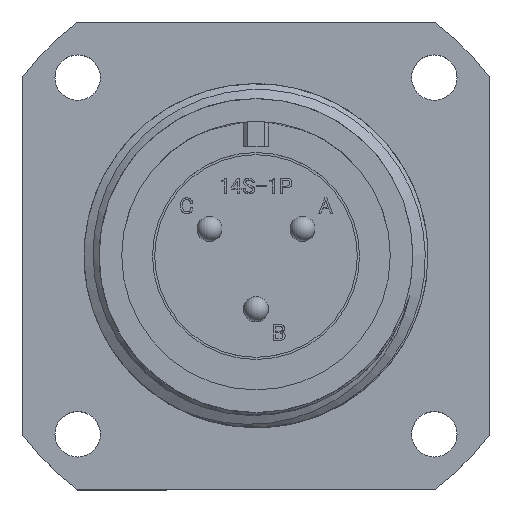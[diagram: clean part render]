
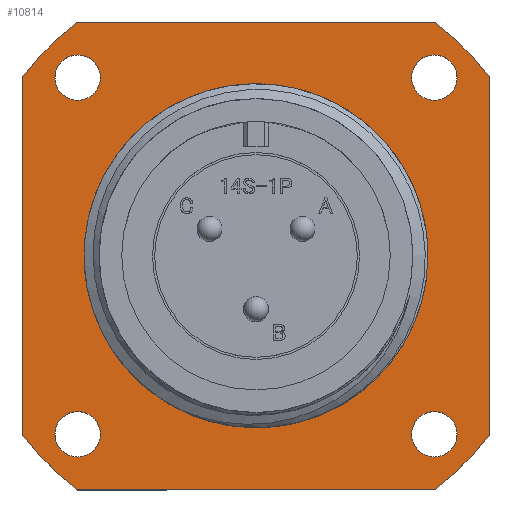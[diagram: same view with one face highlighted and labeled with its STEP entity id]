
A CAD part, top view. The second image highlights one B-rep face of the part: STEP entity #10814.
In plain terms, the highlighted planar face has unit normal (0, 0, 1).
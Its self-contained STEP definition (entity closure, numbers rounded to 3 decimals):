
#504 = AXIS2_PLACEMENT_3D ( 'NONE', #11716, #6411, #9613 ) ;
#786 = CARTESIAN_POINT ( 'NONE',  ( 11.532, -15.1, -14.48 ) ) ;
#886 = ORIENTED_EDGE ( 'NONE', *, *, #12243, .T. ) ;
#921 = CARTESIAN_POINT ( 'NONE',  ( -15.1, 11.532, -14.48 ) ) ;
#994 = DIRECTION ( 'NONE',  ( 0., 0., 1. ) ) ;
#1973 = DIRECTION ( 'NONE',  ( -1., 0., 0. ) ) ;
#2007 = EDGE_CURVE ( 'NONE', #11740, #11740, #3165, .T. ) ;
#2093 = EDGE_LOOP ( 'NONE', ( #7126 ) ) ;
#2207 = AXIS2_PLACEMENT_3D ( 'NONE', #13440, #994, #7135 ) ;
#2344 = CIRCLE ( 'NONE', #9179, 19. ) ;
#2371 = DIRECTION ( 'NONE',  ( 0., 0., 1. ) ) ;
#2385 = CARTESIAN_POINT ( 'NONE',  ( 15.1, 11.532, -14.48 ) ) ;
#2452 = ORIENTED_EDGE ( 'NONE', *, *, #7600, .T. ) ;
#2457 = CARTESIAN_POINT ( 'NONE',  ( -11.532, -15.1, -14.48 ) ) ;
#2512 = DIRECTION ( 'NONE',  ( 0., 1., 0. ) ) ;
#2613 = PLANE ( 'NONE',  #6826 ) ;
#2683 = FACE_BOUND ( 'NONE', #9467, .T. ) ;
#2686 = CARTESIAN_POINT ( 'NONE',  ( -11.532, 15.1, -14.48 ) ) ;
#2756 = CARTESIAN_POINT ( 'NONE',  ( -11.51, -11.51, -14.48 ) ) ;
#2850 = CIRCLE ( 'NONE', #10523, 11.095 ) ;
#2917 = EDGE_CURVE ( 'NONE', #3375, #7751, #2344, .T. ) ;
#2959 = VERTEX_POINT ( 'NONE', #12703 ) ;
#3027 = DIRECTION ( 'NONE',  ( 0., 0., 1. ) ) ;
#3165 = CIRCLE ( 'NONE', #4260, 1.465 ) ;
#3192 = CIRCLE ( 'NONE', #2207, 19. ) ;
#3241 = AXIS2_PLACEMENT_3D ( 'NONE', #12245, #3027, #5098 ) ;
#3365 = VERTEX_POINT ( 'NONE', #10529 ) ;
#3375 = VERTEX_POINT ( 'NONE', #2686 ) ;
#3440 = DIRECTION ( 'NONE',  ( -1., 0., 0. ) ) ;
#3654 = CARTESIAN_POINT ( 'NONE',  ( 0., 0., -14.48 ) ) ;
#4045 = EDGE_LOOP ( 'NONE', ( #4928, #12126, #2452, #8824, #12200, #12285, #7199, #886 ) ) ;
#4130 = EDGE_CURVE ( 'NONE', #13536, #2959, #10944, .T. ) ;
#4239 = EDGE_CURVE ( 'NONE', #10746, #10746, #6115, .T. ) ;
#4260 = AXIS2_PLACEMENT_3D ( 'NONE', #10813, #2371, #3440 ) ;
#4329 = ORIENTED_EDGE ( 'NONE', *, *, #4761, .F. ) ;
#4445 = VERTEX_POINT ( 'NONE', #12912 ) ;
#4640 = DIRECTION ( 'NONE',  ( 0., 0., 1. ) ) ;
#4680 = CIRCLE ( 'NONE', #504, 1.465 ) ;
#4682 = VERTEX_POINT ( 'NONE', #5923 ) ;
#4761 = EDGE_CURVE ( 'NONE', #3365, #3365, #7119, .T. ) ;
#4775 = FACE_BOUND ( 'NONE', #2093, .T. ) ;
#4818 = VECTOR ( 'NONE', #5565, 1000. ) ;
#4928 = ORIENTED_EDGE ( 'NONE', *, *, #2917, .T. ) ;
#5062 = CARTESIAN_POINT ( 'NONE',  ( 10.045, 11.51, -14.48 ) ) ;
#5098 = DIRECTION ( 'NONE',  ( 1., 0., 0. ) ) ;
#5294 = ORIENTED_EDGE ( 'NONE', *, *, #2007, .F. ) ;
#5360 = CARTESIAN_POINT ( 'NONE',  ( 0., 0., -14.48 ) ) ;
#5565 = DIRECTION ( 'NONE',  ( 1., 0., 0. ) ) ;
#5688 = EDGE_CURVE ( 'NONE', #2959, #9934, #9347, .T. ) ;
#5923 = CARTESIAN_POINT ( 'NONE',  ( 11.532, 15.1, -14.48 ) ) ;
#6115 = CIRCLE ( 'NONE', #7169, 1.465 ) ;
#6129 = VERTEX_POINT ( 'NONE', #12679 ) ;
#6411 = DIRECTION ( 'NONE',  ( 0., 0., 1. ) ) ;
#6521 = ORIENTED_EDGE ( 'NONE', *, *, #13019, .T. ) ;
#6658 = CARTESIAN_POINT ( 'NONE',  ( 0., 0., -14.48 ) ) ;
#6732 = ORIENTED_EDGE ( 'NONE', *, *, #7452, .F. ) ;
#6742 = FACE_BOUND ( 'NONE', #7689, .T. ) ;
#6826 = AXIS2_PLACEMENT_3D ( 'NONE', #3654, #10986, #13157 ) ;
#7072 = CARTESIAN_POINT ( 'NONE',  ( 0., 0., -14.48 ) ) ;
#7119 = CIRCLE ( 'NONE', #9199, 1.465 ) ;
#7126 = ORIENTED_EDGE ( 'NONE', *, *, #4239, .F. ) ;
#7135 = DIRECTION ( 'NONE',  ( 1., 0., 0. ) ) ;
#7169 = AXIS2_PLACEMENT_3D ( 'NONE', #2756, #4640, #7816 ) ;
#7199 = ORIENTED_EDGE ( 'NONE', *, *, #10295, .T. ) ;
#7389 = FACE_OUTER_BOUND ( 'NONE', #4045, .T. ) ;
#7452 = EDGE_CURVE ( 'NONE', #10561, #10561, #4680, .T. ) ;
#7524 = DIRECTION ( 'NONE',  ( 0., 0., -1. ) ) ;
#7600 = EDGE_CURVE ( 'NONE', #4445, #12650, #9913, .T. ) ;
#7648 = AXIS2_PLACEMENT_3D ( 'NONE', #5360, #8544, #10645 ) ;
#7689 = EDGE_LOOP ( 'NONE', ( #6732 ) ) ;
#7712 = DIRECTION ( 'NONE',  ( 1., 0., 0. ) ) ;
#7751 = VERTEX_POINT ( 'NONE', #921 ) ;
#7816 = DIRECTION ( 'NONE',  ( -1., 0., 0. ) ) ;
#7920 = EDGE_LOOP ( 'NONE', ( #5294 ) ) ;
#8078 = CARTESIAN_POINT ( 'NONE',  ( -11.532, 15.1, -14.48 ) ) ;
#8143 = DIRECTION ( 'NONE',  ( 1., 0., 0. ) ) ;
#8198 = CARTESIAN_POINT ( 'NONE',  ( -12.975, -11.51, -14.48 ) ) ;
#8269 = EDGE_LOOP ( 'NONE', ( #4329 ) ) ;
#8415 = FACE_BOUND ( 'NONE', #7920, .T. ) ;
#8461 = EDGE_CURVE ( 'NONE', #12650, #13536, #12905, .T. ) ;
#8544 = DIRECTION ( 'NONE',  ( 0., 0., 1. ) ) ;
#8570 = VECTOR ( 'NONE', #1973, 1000. ) ;
#8824 = ORIENTED_EDGE ( 'NONE', *, *, #8461, .T. ) ;
#8933 = CARTESIAN_POINT ( 'NONE',  ( -11.532, -15.1, -14.48 ) ) ;
#9098 = DIRECTION ( 'NONE',  ( 0., 0., 1. ) ) ;
#9179 = AXIS2_PLACEMENT_3D ( 'NONE', #7072, #9098, #8143 ) ;
#9190 = LINE ( 'NONE', #11665, #10512 ) ;
#9199 = AXIS2_PLACEMENT_3D ( 'NONE', #12226, #13286, #11201 ) ;
#9347 = LINE ( 'NONE', #2385, #10020 ) ;
#9467 = EDGE_LOOP ( 'NONE', ( #6521 ) ) ;
#9478 = DIRECTION ( 'NONE',  ( 0., -1., 0. ) ) ;
#9613 = DIRECTION ( 'NONE',  ( 1., 0., 0. ) ) ;
#9913 = CIRCLE ( 'NONE', #7648, 19. ) ;
#9934 = VERTEX_POINT ( 'NONE', #12743 ) ;
#10020 = VECTOR ( 'NONE', #2512, 1000. ) ;
#10295 = EDGE_CURVE ( 'NONE', #9934, #4682, #3192, .T. ) ;
#10512 = VECTOR ( 'NONE', #9478, 1000. ) ;
#10523 = AXIS2_PLACEMENT_3D ( 'NONE', #6658, #7524, #7712 ) ;
#10529 = CARTESIAN_POINT ( 'NONE',  ( 12.975, -11.51, -14.48 ) ) ;
#10561 = VERTEX_POINT ( 'NONE', #11469 ) ;
#10645 = DIRECTION ( 'NONE',  ( 1., 0., 0. ) ) ;
#10746 = VERTEX_POINT ( 'NONE', #8198 ) ;
#10813 = CARTESIAN_POINT ( 'NONE',  ( 11.51, 11.51, -14.48 ) ) ;
#10814 = ADVANCED_FACE ( 'NONE', ( #2683, #4775, #11546, #8415, #6742, #7389 ), #2613, .T. ) ;
#10944 = CIRCLE ( 'NONE', #3241, 19. ) ;
#10986 = DIRECTION ( 'NONE',  ( 0., 0., 1. ) ) ;
#11201 = DIRECTION ( 'NONE',  ( 1., 0., 0. ) ) ;
#11469 = CARTESIAN_POINT ( 'NONE',  ( -10.045, 11.51, -14.48 ) ) ;
#11546 = FACE_BOUND ( 'NONE', #8269, .T. ) ;
#11665 = CARTESIAN_POINT ( 'NONE',  ( -15.1, 11.532, -14.48 ) ) ;
#11716 = CARTESIAN_POINT ( 'NONE',  ( -11.51, 11.51, -14.48 ) ) ;
#11740 = VERTEX_POINT ( 'NONE', #5062 ) ;
#12126 = ORIENTED_EDGE ( 'NONE', *, *, #13237, .T. ) ;
#12200 = ORIENTED_EDGE ( 'NONE', *, *, #4130, .T. ) ;
#12226 = CARTESIAN_POINT ( 'NONE',  ( 11.51, -11.51, -14.48 ) ) ;
#12243 = EDGE_CURVE ( 'NONE', #4682, #3375, #12363, .T. ) ;
#12245 = CARTESIAN_POINT ( 'NONE',  ( 0., 0., -14.48 ) ) ;
#12285 = ORIENTED_EDGE ( 'NONE', *, *, #5688, .T. ) ;
#12363 = LINE ( 'NONE', #8078, #8570 ) ;
#12650 = VERTEX_POINT ( 'NONE', #8933 ) ;
#12679 = CARTESIAN_POINT ( 'NONE',  ( 11.095, 0., -14.48 ) ) ;
#12703 = CARTESIAN_POINT ( 'NONE',  ( 15.1, -11.532, -14.48 ) ) ;
#12743 = CARTESIAN_POINT ( 'NONE',  ( 15.1, 11.532, -14.48 ) ) ;
#12905 = LINE ( 'NONE', #2457, #4818 ) ;
#12912 = CARTESIAN_POINT ( 'NONE',  ( -15.1, -11.532, -14.48 ) ) ;
#13019 = EDGE_CURVE ( 'NONE', #6129, #6129, #2850, .T. ) ;
#13157 = DIRECTION ( 'NONE',  ( 1., 0., 0. ) ) ;
#13237 = EDGE_CURVE ( 'NONE', #7751, #4445, #9190, .T. ) ;
#13286 = DIRECTION ( 'NONE',  ( 0., 0., 1. ) ) ;
#13440 = CARTESIAN_POINT ( 'NONE',  ( 0., 0., -14.48 ) ) ;
#13536 = VERTEX_POINT ( 'NONE', #786 ) ;
